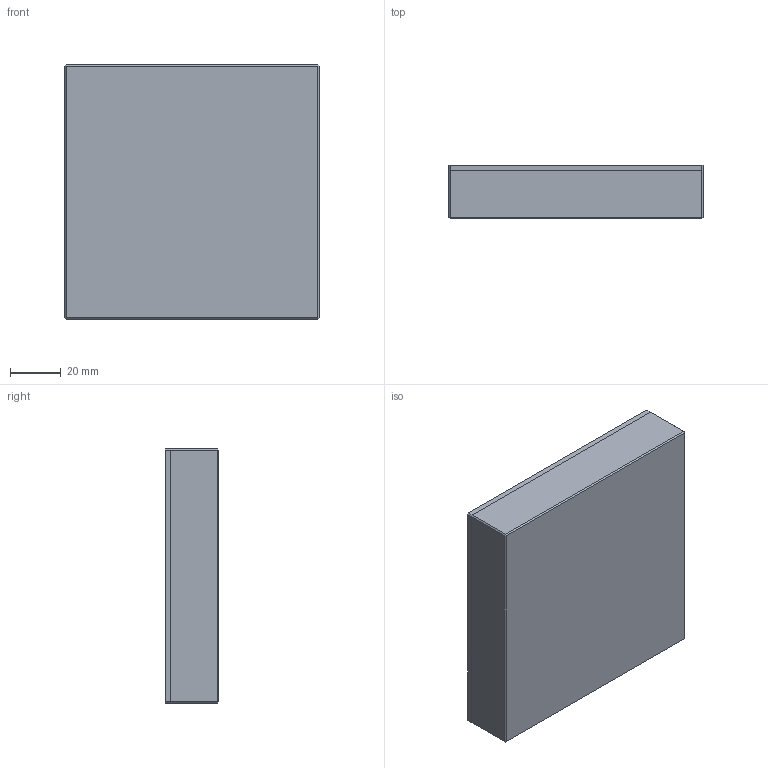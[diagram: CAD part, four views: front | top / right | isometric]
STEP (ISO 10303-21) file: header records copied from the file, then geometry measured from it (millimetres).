
FILE_DESCRIPTION (( 'STEP AP203' ), '1' );
FILE_NAME ('CK-IP67100100-00 滅阨嫖埭軞芞.STEP', '2025-08-16T03:56:36', ( '' ), ( '' ), 'SwSTEP 2.0', 'SolidWorks 2022', '' );
FILE_SCHEMA (( 'CONFIG_CONTROL_DESIGN' ));
Length unit declared in the file: millimetre
Products named in the file (5): CK-IP67100100-A001 底座; CK-IP67100100-00 防水光源总图; CK-IP67100100-A002 盖板; CK-IP67100100-A003 漫射板; CK-IP67100100-A004 灯板
Assembly tree (4 placements, depth 2):
  CK-IP67100100-00 防水光源总图
    CK-IP67100100-A001 底座
    CK-IP67100100-A002 盖板
    CK-IP67100100-A003 漫射板
    CK-IP67100100-A004 灯板
Bounding box: 100 x 21 x 100 mm (x, y, z)
Volume: 126267.5 mm3; surface area: 69590.8 mm2
Topology: 4 solids, 4 shells, 476 faces, 1150 edges, 734 vertices
Faces by surface type: plane 374, cylinder 62, cone 36, sphere 4
Entity records: 14041 total; most frequent: CARTESIAN_POINT 2343, ORIENTED_EDGE 2252, DIRECTION 2232, EDGE_CURVE 1126, LINE 986, VECTOR 986, VERTEX_POINT 734, AXIS2_PLACEMENT_3D 623
